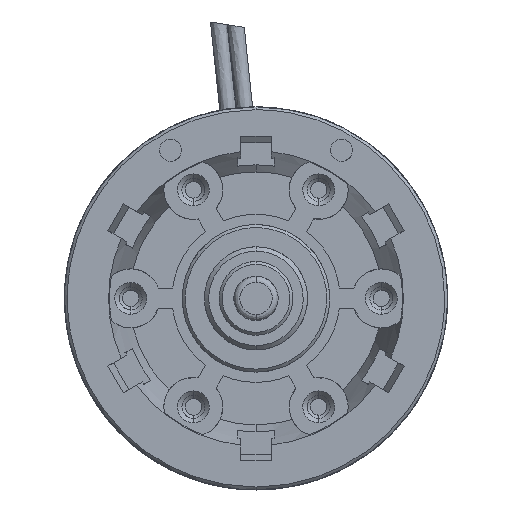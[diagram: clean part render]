
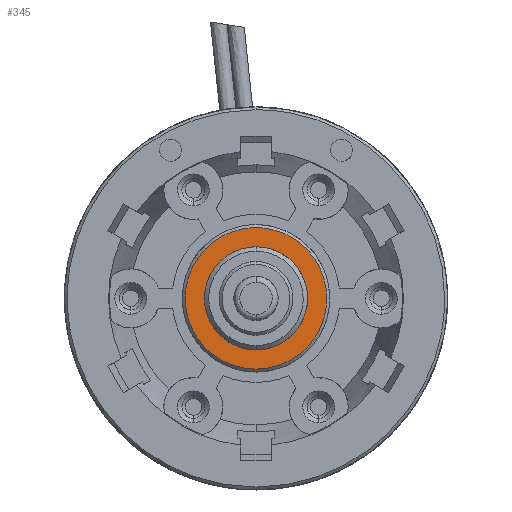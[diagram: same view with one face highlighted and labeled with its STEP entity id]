
A CAD part, left-side view. The second image highlights one B-rep face of the part: STEP entity #345.
In plain terms, the highlighted free-form (B-spline) face has degree [1, 1] with [2, 2] control points.
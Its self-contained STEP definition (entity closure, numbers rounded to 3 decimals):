
#57=FACE_BOUND('',#1054,.T.);
#345=ADVANCED_FACE('',(#686,#57),#5107,.T.);
#686=FACE_OUTER_BOUND('',#1053,.T.);
#1053=EDGE_LOOP('',(#2749,#2750,#2751));
#1054=EDGE_LOOP('',(#2752,#2753,#2754,#2755));
#2749=ORIENTED_EDGE('',*,*,#4037,.F.);
#2750=ORIENTED_EDGE('',*,*,#4073,.T.);
#2751=ORIENTED_EDGE('',*,*,#4071,.T.);
#2752=ORIENTED_EDGE('',*,*,#4078,.T.);
#2753=ORIENTED_EDGE('',*,*,#4074,.T.);
#2754=ORIENTED_EDGE('',*,*,#4072,.T.);
#2755=ORIENTED_EDGE('',*,*,#4202,.T.);
#4037=EDGE_CURVE('',#4822,#4821,#13097,.T.);
#4071=EDGE_CURVE('',#4844,#4821,#13125,.T.);
#4072=EDGE_CURVE('',#4845,#4928,#13126,.T.);
#4073=EDGE_CURVE('',#4822,#4844,#13127,.T.);
#4074=EDGE_CURVE('',#4847,#4845,#13128,.T.);
#4078=EDGE_CURVE('',#4846,#4847,#13131,.T.);
#4202=EDGE_CURVE('',#4928,#4846,#13209,.T.);
#4821=VERTEX_POINT('',#12660);
#4822=VERTEX_POINT('',#12661);
#4844=VERTEX_POINT('',#12683);
#4845=VERTEX_POINT('',#12684);
#4846=VERTEX_POINT('',#12685);
#4847=VERTEX_POINT('',#12686);
#4928=VERTEX_POINT('',#12767);
#5107=B_SPLINE_SURFACE_WITH_KNOTS('',1,1,((#11481,#11482),(#11483,#11484)),
.UNSPECIFIED.,.F.,.F.,.F.,(2,2),(2,2),(-4.896,4.896),(-0.096,9.696),.UNSPECIFIED.);
#9188=CARTESIAN_POINT('',(-1.,0.,-4.8));
#9189=CARTESIAN_POINT('',(-1.,4.8,-4.8));
#9190=CARTESIAN_POINT('',(-1.,4.8,0.));
#9310=CARTESIAN_POINT('',(-1.,-4.8,0.));
#9311=CARTESIAN_POINT('',(-1.,-4.8,4.8));
#9312=CARTESIAN_POINT('',(-1.,0.,4.8));
#9313=CARTESIAN_POINT('',(-1.,4.8,4.8));
#9314=CARTESIAN_POINT('',(-1.,4.8,0.));
#9315=CARTESIAN_POINT('',(-1.,3.5,0.));
#9316=CARTESIAN_POINT('',(-1.,3.5,3.5));
#9317=CARTESIAN_POINT('',(-1.,0.,3.5));
#9318=CARTESIAN_POINT('',(-1.,0.,-4.8));
#9319=CARTESIAN_POINT('',(-1.,-4.8,-4.8));
#9320=CARTESIAN_POINT('',(-1.,-4.8,0.));
#9321=CARTESIAN_POINT('',(-1.,0.,-3.5));
#9322=CARTESIAN_POINT('',(-1.,3.5,-3.5));
#9323=CARTESIAN_POINT('',(-1.,3.5,0.));
#9334=CARTESIAN_POINT('',(-1.,-3.5,0.));
#9335=CARTESIAN_POINT('',(-1.,-3.5,-3.5));
#9336=CARTESIAN_POINT('',(-1.,0.,-3.5));
#9692=CARTESIAN_POINT('',(-1.,0.,3.5));
#9693=CARTESIAN_POINT('',(-1.,-3.5,3.5));
#9694=CARTESIAN_POINT('',(-1.,-3.5,0.));
#11481=CARTESIAN_POINT('',(-1.,4.896,4.896));
#11482=CARTESIAN_POINT('',(-1.,-4.896,4.896));
#11483=CARTESIAN_POINT('',(-1.,4.896,-4.896));
#11484=CARTESIAN_POINT('',(-1.,-4.896,-4.896));
#12660=CARTESIAN_POINT('',(-1.,4.8,0.));
#12661=CARTESIAN_POINT('',(-1.,0.,-4.8));
#12683=CARTESIAN_POINT('',(-1.,-4.8,0.));
#12684=CARTESIAN_POINT('',(-1.,3.5,0.));
#12685=CARTESIAN_POINT('',(-1.,-3.5,0.));
#12686=CARTESIAN_POINT('',(-1.,0.,-3.5));
#12767=CARTESIAN_POINT('',(-1.,0.,3.5));
#13097=(
BOUNDED_CURVE()
B_SPLINE_CURVE(2,(#9188,#9189,#9190),.UNSPECIFIED.,.F.,.F.)
B_SPLINE_CURVE_WITH_KNOTS((3,3),(-7.54,0.),.UNSPECIFIED.)
CURVE()
GEOMETRIC_REPRESENTATION_ITEM()
RATIONAL_B_SPLINE_CURVE((1.,0.707,1.))
REPRESENTATION_ITEM('')
);
#13125=(
BOUNDED_CURVE()
B_SPLINE_CURVE(2,(#9310,#9311,#9312,#9313,#9314),.UNSPECIFIED.,.F.,.F.)
B_SPLINE_CURVE_WITH_KNOTS((3,2,3),(15.08,22.619,30.159),
.UNSPECIFIED.)
CURVE()
GEOMETRIC_REPRESENTATION_ITEM()
RATIONAL_B_SPLINE_CURVE((1.,0.707,1.,0.707,1.))
REPRESENTATION_ITEM('')
);
#13126=(
BOUNDED_CURVE()
B_SPLINE_CURVE(2,(#9315,#9316,#9317),.UNSPECIFIED.,.F.,.F.)
B_SPLINE_CURVE_WITH_KNOTS((3,3),(-21.991,-16.493),.UNSPECIFIED.)
CURVE()
GEOMETRIC_REPRESENTATION_ITEM()
RATIONAL_B_SPLINE_CURVE((1.,0.707,1.))
REPRESENTATION_ITEM('')
);
#13127=(
BOUNDED_CURVE()
B_SPLINE_CURVE(2,(#9318,#9319,#9320),.UNSPECIFIED.,.F.,.F.)
B_SPLINE_CURVE_WITH_KNOTS((3,3),(7.54,15.08),.UNSPECIFIED.)
CURVE()
GEOMETRIC_REPRESENTATION_ITEM()
RATIONAL_B_SPLINE_CURVE((1.,0.707,1.))
REPRESENTATION_ITEM('')
);
#13128=(
BOUNDED_CURVE()
B_SPLINE_CURVE(2,(#9321,#9322,#9323),.UNSPECIFIED.,.F.,.F.)
B_SPLINE_CURVE_WITH_KNOTS((3,3),(-5.498,0.),.UNSPECIFIED.)
CURVE()
GEOMETRIC_REPRESENTATION_ITEM()
RATIONAL_B_SPLINE_CURVE((1.,0.707,1.))
REPRESENTATION_ITEM('')
);
#13131=(
BOUNDED_CURVE()
B_SPLINE_CURVE(2,(#9334,#9335,#9336),.UNSPECIFIED.,.F.,.F.)
B_SPLINE_CURVE_WITH_KNOTS((3,3),(-10.996,-5.498),.UNSPECIFIED.)
CURVE()
GEOMETRIC_REPRESENTATION_ITEM()
RATIONAL_B_SPLINE_CURVE((1.,0.707,1.))
REPRESENTATION_ITEM('')
);
#13209=(
BOUNDED_CURVE()
B_SPLINE_CURVE(2,(#9692,#9693,#9694),.UNSPECIFIED.,.F.,.F.)
B_SPLINE_CURVE_WITH_KNOTS((3,3),(-16.493,-10.996),.UNSPECIFIED.)
CURVE()
GEOMETRIC_REPRESENTATION_ITEM()
RATIONAL_B_SPLINE_CURVE((1.,0.707,1.))
REPRESENTATION_ITEM('')
);
